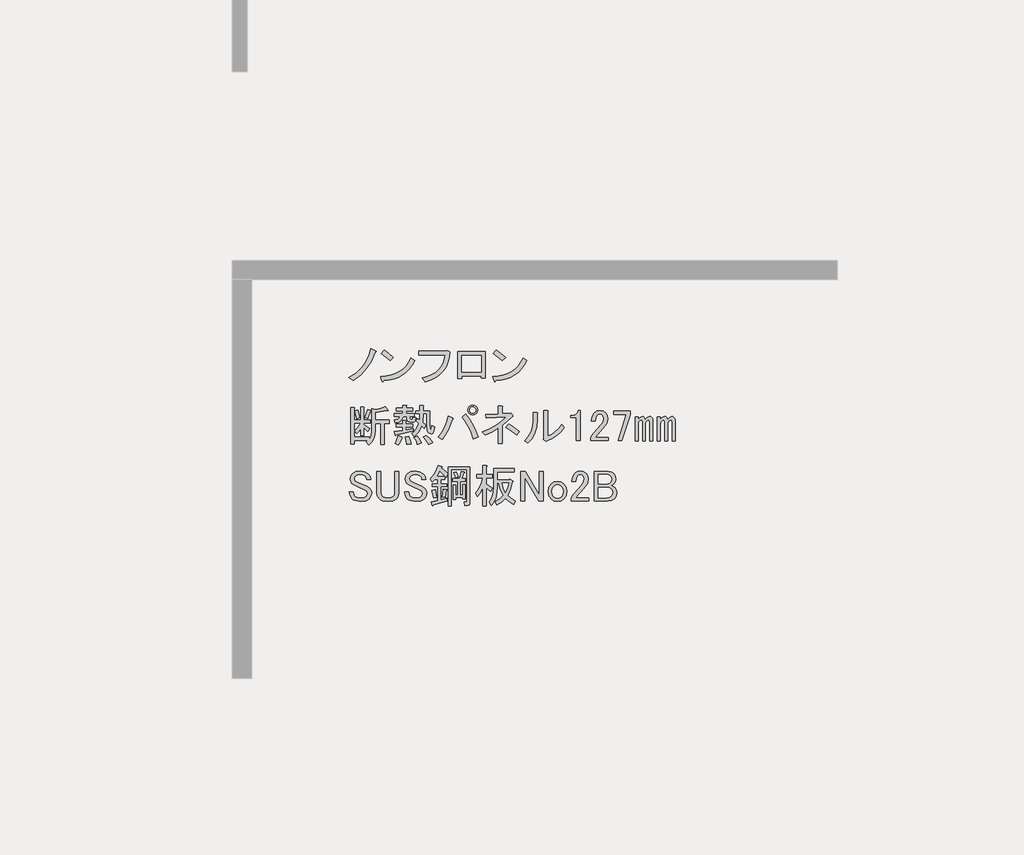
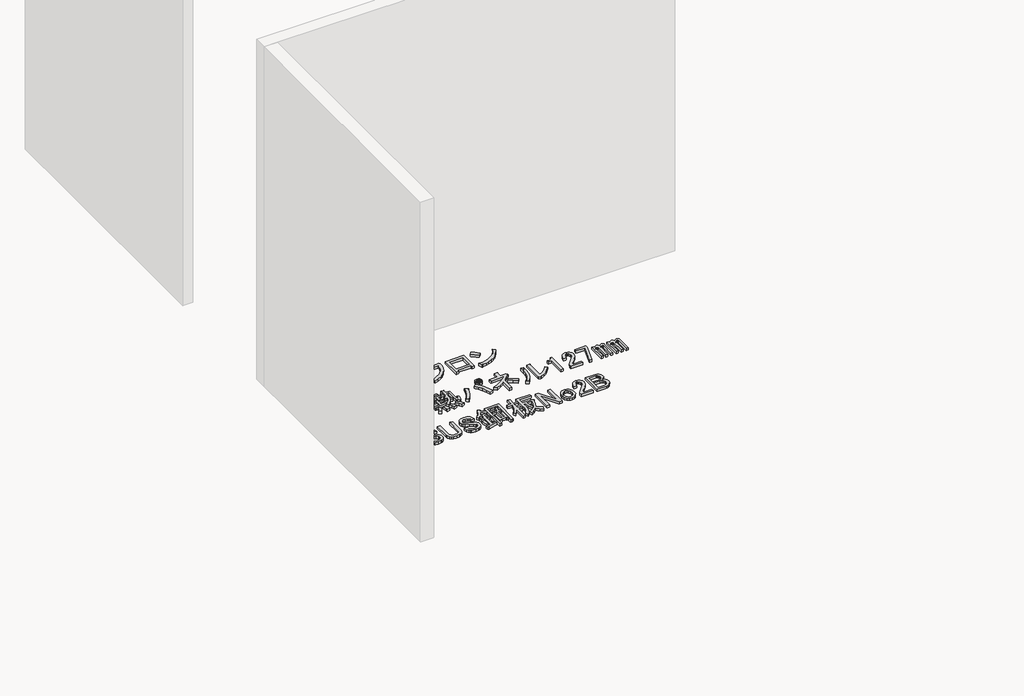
# One storey, part 39 of 117: 1 proxy.
"""IFC4 building model written with IfcOpenShell, lengths in millimetres."""

from ifc_helpers import new_model, si_unit, frame, origin, place, context, project, spatial, polyline, outline, extrude, element, save

model = new_model("IFC4")

# Units and contexts
model_context = context("Model", 3, world=origin())
ifc_project = project(units=[si_unit("LENGTHUNIT", "METRE", prefix="MILLI")], contexts=[model_context])

# Site, building, storey
site = spatial("IfcSite", under=ifc_project)
building = spatial("IfcBuilding", under=site)
storey = spatial("IfcBuildingStorey", under=building, Name="レベル 1", Elevation=500.0)

# Proxy
placement = place(None, origin())
element("IfcBuildingElementProxy", 1, Name="200㎜\u3000MS Pゴシック", ObjectType="200㎜\u3000MS Pゴシック", at=placement, inside=storey, context=model_context, shape_type="SweptSolid", body=[
    extrude(outline(polyline([(8943.6706985, -8607.0496882), (8918.0952502, -8666.8215225), (8889.646156, -8712.7998566), (8847.9782907, -8758.2034615), (8798.8389462, -8795.560858), (8771.2519457, -8773.7211493), (8818.9544673, -8743.2605029), (8858.6107805, -8704.7536481), (8875.9963381, -8680.8305462), (8891.3703435, -8652.7406577), (8904.7327969, -8620.4839827), (8916.0836981, -8584.0605212), (8947.1190736, -8597.8540214), (8950.2800841, -8602.4518548), (8943.6706985, -8607.0496882)])), frame((0.0, 0.0, 500.0), z_axis=(0.0, 0.0, 1.0), x_axis=(1.0, 0.0, 0.0)), (0.0, 0.0, 1.0), 25.0),
    extrude(outline(polyline([(9043.3977052, -8662.2236891), (8984.7753292, -8615.0958967), (9004.3161212, -8590.9572713), (9031.6157571, -8610.7854279), (9065.2374138, -8640.3839804), (9043.3977052, -8662.2236891)])), frame((0.0, 0.0, 500.0), z_axis=(0.0, 0.0, 1.0), x_axis=(1.0, 0.0, 0.0)), (0.0, 0.0, 1.0), 25.0),
    extrude(outline(polyline([(9205.4713328, -8662.2236891), (9188.947869, -8691.965924), (9169.8381239, -8717.9724192), (9148.1420975, -8740.2431748), (9123.8597898, -8758.7781907), (9096.9912008, -8773.577467), (9067.5363306, -8784.6410036), (9035.495179, -8791.9688006), (9000.8677461, -8795.560858), (8995.1204544, -8803.6070664), (8989.3731626, -8797.8597747), (8980.1774958, -8767.9738575), (9016.0082679, -8765.2977748), (9048.7857912, -8758.9937141), (9078.5100658, -8749.0616756), (9105.1810916, -8735.5016591), (9128.7988687, -8718.3136646), (9149.363397, -8697.4976923), (9166.8746766, -8673.053742), (9181.3327074, -8644.9818138), (9205.4713328, -8662.2236891)])), frame((0.0, 0.0, 500.0), z_axis=(0.0, 0.0, 1.0), x_axis=(1.0, 0.0, 0.0)), (0.0, 0.0, 1.0), 25.0),
    extrude(outline(polyline([(9256.2314136, -8777.1695243), (9290.014713, -8767.4889298), (9319.5234641, -8755.1142922), (9344.757667, -8740.0456116), (9365.7173217, -8722.282888), (9382.402428, -8701.8261214), (9394.8129862, -8678.6753118), (9402.9489961, -8652.8304591), (9406.8104577, -8624.2915635), (9234.3917049, -8624.2915635), (9234.3917049, -8599.0034798), (9409.1093744, -8599.0034798), (9425.2017914, -8595.5551047), (9437.8458332, -8607.0496882), (9434.325617, -8643.5449909), (9426.0638851, -8676.5919185), (9413.0606375, -8706.1904711), (9395.3158742, -8732.3406486), (9372.8295952, -8755.042451), (9345.6018005, -8774.2958784), (9313.6324901, -8790.1009308), (9276.921664, -8802.4576081), (9256.2314136, -8777.1695243)])), frame((0.0, 0.0, 500.0), z_axis=(0.0, 0.0, 1.0), x_axis=(1.0, 0.0, 0.0)), (0.0, 0.0, 1.0), 25.0),
    extrude(outline(polyline([(9670.955987, -8776.020066), (9644.5184449, -8776.020066), (9644.5184449, -8763.3760241), (9516.9285679, -8763.3760241), (9516.9285679, -8781.7673577), (9490.4910258, -8781.7673577), (9490.4910258, -8602.4518548), (9670.955987, -8602.4518548), (9670.955987, -8776.020066)]), holes=[polyline([(9516.9285679, -8627.7399386), (9516.9285679, -8738.0879404), (9644.5184449, -8738.0879404), (9644.5184449, -8627.7399386), (9516.9285679, -8627.7399386)])]), frame((0.0, 0.0, 500.0), z_axis=(0.0, 0.0, 1.0), x_axis=(1.0, 0.0, 0.0)), (0.0, 0.0, 1.0), 25.0),
    extrude(outline(polyline([(9947.0099049, -8662.2236891), (9930.4864411, -8691.965924), (9911.376696, -8717.9724192), (9889.6806696, -8740.2431748), (9865.3983619, -8758.7781907), (9838.5297729, -8773.577467), (9809.0749026, -8784.6410036), (9777.0337511, -8791.9688006), (9742.4063182, -8795.560858), (9736.6590264, -8803.6070664), (9730.9117347, -8797.8597747), (9721.7160679, -8767.9738575), (9757.5468399, -8765.2977748), (9790.3243633, -8758.9937141), (9820.0486378, -8749.0616756), (9846.7196637, -8735.5016591), (9870.3374407, -8718.3136646), (9890.9019691, -8697.4976923), (9908.4132486, -8673.053742), (9922.8712795, -8644.9818138), (9947.0099049, -8662.2236891)])), frame((0.0, 0.0, 500.0), z_axis=(0.0, 0.0, 1.0), x_axis=(1.0, 0.0, 0.0)), (0.0, 0.0, 1.0), 25.0),
    extrude(outline(polyline([(9784.9362772, -8662.2236891), (9726.3139013, -8615.0958967), (9745.8546933, -8590.9572713), (9773.1543291, -8610.7854279), (9806.7759859, -8640.3839804), (9784.9362772, -8662.2236891)])), frame((0.0, 0.0, 500.0), z_axis=(0.0, 0.0, 1.0), x_axis=(1.0, 0.0, 0.0)), (0.0, 0.0, 1.0), 25.0),
    extrude(outline(polyline([(8877.0021141, -9039.2345221), (8894.2439894, -8986.3594379), (8914.9342397, -8992.1067296), (8916.6584273, -8995.2677401), (8912.635323, -8997.8540214), (8895.3934477, -9046.1312722), (8877.0021141, -9039.2345221)])), frame((0.0, 0.0, 500.0), z_axis=(0.0, 0.0, 1.0), x_axis=(1.0, 0.0, 0.0)), (0.0, 0.0, 1.0), 25.0),
    extrude(outline(polyline([(9031.0295333, -8990.9572713), (9029.3053458, -8995.5551047), (9021.8338665, -8993.256188), (8944.8201569, -9005.9002299), (8944.8201569, -9055.326939), (9036.7768251, -9055.326939), (9036.7768251, -9077.1666477), (9005.7414495, -9077.1666477), (9005.7414495, -9217.4005666), (8982.7522825, -9217.4005666), (8982.7522825, -9077.1666477), (8944.8201569, -9077.1666477), (8944.8201569, -9126.5933568), (8942.2338756, -9154.3958807), (8934.4750317, -9179.1810764), (8921.5436253, -9200.948944), (8903.4396562, -9219.6994833), (8886.1977809, -9200.1586914), (8896.5429061, -9190.9630245), (8806.8851546, -9190.9630245), (8806.8851546, -9212.8027332), (8783.8959876, -9212.8027332), (8783.8959876, -8973.715396), (8805.7356963, -8973.715396), (8810.6208943, -8976.0143127), (8806.8851546, -8980.6121461), (8806.8851546, -9056.4763974), (8849.4151137, -9056.4763974), (8849.4151137, -8969.1175626), (8867.8064473, -8969.1175626), (8872.6916453, -8971.4164793), (8868.9559057, -8976.0143127), (8868.9559057, -9056.4763974), (8912.635323, -9056.4763974), (8912.635323, -9074.867731), (8868.9559057, -9074.867731), (8868.9559057, -9084.0633978), (8909.186948, -9110.5009399), (8895.3934477, -9132.3406486), (8868.9559057, -9105.9031065), (8868.9559057, -9158.7781907), (8849.4151137, -9158.7781907), (8849.4151137, -9110.5009399), (8836.1963426, -9130.3290965), (8821.8281132, -9146.1341488), (8809.1840713, -9127.7428152), (8831.02378, -9103.6041898), (8848.2656553, -9074.867731), (8806.8851546, -9074.867731), (8806.8851546, -9169.1233159), (8904.5891146, -9169.1233159), (8904.5891146, -9182.9168161), (8917.520521, -9158.7781907), (8921.8309898, -9125.4438985), (8921.8309898, -8980.6121461), (8943.6706985, -8986.3594379), (8979.8786366, -8978.8879586), (9010.339283, -8965.6691875), (9031.0295333, -8990.9572713)])), frame((0.0, 0.0, 500.0), z_axis=(0.0, 0.0, 1.0), x_axis=(1.0, 0.0, 0.0)), (0.0, 0.0, 1.0), 25.0),
    extrude(outline(polyline([(8822.9775716, -9047.2807305), (8810.3335297, -8996.7045631), (8829.8743217, -8989.8078129), (8837.6331656, -9013.9464383), (8842.5183636, -9040.3839804), (8822.9775716, -9047.2807305)])), frame((0.0, 0.0, 500.0), z_axis=(0.0, 0.0, 1.0), x_axis=(1.0, 0.0, 0.0)), (0.0, 0.0, 1.0), 25.0),
    extrude(outline(polyline([(9121.8367431, -9167.9738575), (9125.2851182, -9172.8590555), (9119.5378264, -9176.020066), (9109.7674304, -9201.5955143), (9098.8475761, -9220.8489417), (9075.858409, -9209.3543582), (9088.5024509, -9185.790462), (9098.8475761, -9158.7781907), (9121.8367431, -9167.9738575)])), frame((0.0, 0.0, 500.0), z_axis=(0.0, 0.0, 1.0), x_axis=(1.0, 0.0, 0.0)), (0.0, 0.0, 1.0), 25.0),
    extrude(outline(polyline([(9166.6656188, -9163.3760241), (9176.7233794, -9190.67566), (9181.6085774, -9212.8027332), (9152.8721186, -9218.550025), (9150.2858373, -9196.9976809), (9142.5269934, -9166.8243992), (9166.6656188, -9163.3760241)])), frame((0.0, 0.0, 500.0), z_axis=(0.0, 0.0, 1.0), x_axis=(1.0, 0.0, 0.0)), (0.0, 0.0, 1.0), 25.0),
    extrude(outline(polyline([(9281.611454, -9157.6287323), (9306.3248086, -9178.8937119), (9325.2908714, -9203.6070664), (9298.8533293, -9218.550025), (9279.5999019, -9188.9514724), (9260.9212037, -9169.1233159), (9281.611454, -9157.6287323)])), frame((0.0, 0.0, 500.0), z_axis=(0.0, 0.0, 1.0), x_axis=(1.0, 0.0, 0.0)), (0.0, 0.0, 1.0), 25.0),
    extrude(outline(polyline([(9222.9890781, -9216.2511083), (9214.655505, -9191.5377537), (9201.1493694, -9170.2727742), (9221.8396197, -9162.2265657), (9238.7941304, -9183.7789098), (9250.5760785, -9207.0554415), (9222.9890781, -9216.2511083)])), frame((0.0, 0.0, 500.0), z_axis=(0.0, 0.0, 1.0), x_axis=(1.0, 0.0, 0.0)), (0.0, 0.0, 1.0), 25.0),
    extrude(outline(polyline([(9083.9046175, -9153.0308989), (9081.8930654, -9157.9160969), (9078.1573257, -9156.479274), (9072.410034, -9132.3406486), (9127.5840349, -9124.2944401), (9127.5840349, -9101.3052731), (9083.9046175, -9101.3052731), (9083.9046175, -9082.9139395), (9127.5840349, -9082.9139395), (9127.5840349, -9059.9247724), (9145.9753685, -9059.9247724), (9150.8605665, -9062.2236891), (9147.1248268, -9066.8215225), (9147.1248268, -9082.9139395), (9191.9537026, -9082.9139395), (9191.9537026, -9101.3052731), (9147.1248268, -9101.3052731), (9147.1248268, -9120.8460651), (9197.7009943, -9111.6503983), (9197.7009943, -9127.7428152), (9083.9046175, -9153.0308989)])), frame((0.0, 0.0, 500.0), z_axis=(0.0, 0.0, 1.0), x_axis=(1.0, 0.0, 0.0)), (0.0, 0.0, 1.0), 25.0),
    extrude(outline(polyline([(9154.021577, -9031.1883136), (9128.7334932, -9031.1883136), (9124.1356598, -9048.6457123), (9113.7905346, -9061.9363245), (9097.6981177, -9071.0601502), (9075.858409, -9076.0171893), (9071.2605756, -9056.4763974), (9096.5486594, -9047.8554597), (9104.0201386, -9040.5276627), (9108.0432429, -9031.1883136), (9072.410034, -9031.1883136), (9072.410034, -9012.79698), (9126.4345765, -9012.79698), (9126.4345765, -8995.5551047), (9082.7551591, -8995.5551047), (9082.7551591, -8977.1637711), (9126.4345765, -8977.1637711), (9126.4345765, -8958.7724374), (9148.2742852, -8958.7724374), (9153.1594832, -8961.0713541), (9149.4237436, -8965.6691875), (9149.4237436, -8977.1637711), (9191.9537026, -8977.1637711), (9191.9537026, -8995.5551047), (9149.4237436, -8995.5551047), (9149.4237436, -9012.79698), (9202.2988277, -9012.79698), (9202.2988277, -9031.1883136), (9173.5623689, -9031.1883136), (9173.5623689, -9043.8323555), (9174.9991919, -9049.0049181), (9179.3096607, -9050.7291056), (9189.6547859, -9050.7291056), (9193.3905255, -9047.5680951), (9193.1031609, -9038.0850637), (9212.6439529, -9040.3839804), (9209.770307, -9061.9363245), (9204.4540622, -9067.3244106), (9196.551536, -9069.1204392), (9172.4129106, -9069.1204392), (9158.6194104, -9064.2352412), (9154.021577, -9049.5796472), (9154.021577, -9031.1883136)])), frame((0.0, 0.0, 500.0), z_axis=(0.0, 0.0, 1.0), x_axis=(1.0, 0.0, 0.0)), (0.0, 0.0, 1.0), 25.0),
    extrude(outline(polyline([(9285.0598291, -9013.9464383), (9263.2201204, -9013.9464383), (9258.622287, -9071.4193559), (9278.163079, -9089.8106896), (9267.8179538, -9111.6503983), (9251.7255369, -9095.5579813), (9232.4721095, -9133.2027424), (9202.2988277, -9165.6749408), (9185.0569525, -9144.9846905), (9200.1435933, -9133.0590601), (9213.2186821, -9117.9724192), (9224.2822187, -9099.7247679), (9233.3342033, -9078.316106), (9216.092328, -9063.3731475), (9224.1385364, -9046.1312722), (9237.9320367, -9056.4763974), (9240.2309534, -9013.9464383), (9212.6439529, -9013.9464383), (9212.6439529, -8995.5551047), (9240.2309534, -8995.5551047), (9240.2309534, -8961.0713541), (9262.0706621, -8961.0713541), (9266.95586, -8963.3702708), (9263.2201204, -8967.9681043), (9263.2201204, -8995.5551047), (9304.6006211, -8995.5551047), (9304.6006211, -9092.1096063), (9308.0489961, -9116.2482317), (9311.2818477, -9118.2597838), (9314.0836525, -9115.0987733), (9318.3941213, -9093.2590646), (9337.9349133, -9100.1558147), (9333.408921, -9126.9525626), (9325.578236, -9142.9731384), (9314.4428582, -9148.2175421), (9300.0027877, -9142.6857738), (9293.4652433, -9135.3579768), (9288.7955687, -9123.719711), (9285.0598291, -9087.5117729), (9285.0598291, -9013.9464383)])), frame((0.0, 0.0, 500.0), z_axis=(0.0, 0.0, 1.0), x_axis=(1.0, 0.0, 0.0)), (0.0, 0.0, 1.0), 25.0),
    extrude(outline(polyline([(9543.6879583, -9016.245355), (9570.3410238, -9052.9561812), (9592.8273029, -9090.6727833), (9611.1467953, -9129.3951616), (9625.2995013, -9169.1233159), (9594.2641258, -9179.468441), (9578.8182792, -9136.3637528), (9561.2171982, -9097.856898), (9541.4608827, -9063.9478766), (9519.5493329, -9034.6366887), (9543.6879583, -9016.245355)])), frame((0.0, 0.0, 500.0), z_axis=(0.0, 0.0, 1.0), x_axis=(1.0, 0.0, 0.0)), (0.0, 0.0, 1.0), 25.0),
    extrude(outline(polyline([(9456.3291235, -9042.6828971), (9460.3522278, -9048.1428243), (9454.0302068, -9053.0280223), (9442.1045764, -9088.4457078), (9427.0179356, -9122.282888), (9408.7702842, -9154.539563), (9387.3616224, -9185.2157328), (9360.9240803, -9167.9738575), (9384.1287708, -9136.5074351), (9403.1666748, -9103.0294606), (9418.0377922, -9067.539934), (9428.7421231, -9030.0388553), (9456.3291235, -9042.6828971)])), frame((0.0, 0.0, 500.0), z_axis=(0.0, 0.0, 1.0), x_axis=(1.0, 0.0, 0.0)), (0.0, 0.0, 1.0), 25.0),
    extrude(outline(polyline([(9589.6662924, -9021.9926468), (9577.0222505, -9019.6937301), (9566.6771253, -9012.79698), (9559.7803752, -9002.4518548), (9557.4814585, -8989.8078129), (9559.7803752, -8977.1637711), (9566.6771253, -8966.8186459), (9577.0222505, -8959.9218958), (9589.6662924, -8957.6229791), (9602.3103343, -8959.9218958), (9612.6554594, -8966.8186459), (9619.5522095, -8977.1637711), (9621.8511262, -8989.8078129), (9619.5522095, -9002.4518548), (9612.6554594, -9012.79698), (9602.3103343, -9019.6937301), (9589.6662924, -9021.9926468)]), holes=[polyline([(9589.6662924, -9010.4980633), (9597.9998654, -9009.0612403), (9604.609251, -9004.7507715), (9608.9197198, -8998.141386), (9610.3565427, -8989.8078129), (9608.9197198, -8981.4742399), (9604.609251, -8974.8648544), (9597.9998654, -8970.5543855), (9589.6662924, -8969.1175626), (9581.3327193, -8970.5543855), (9574.7233338, -8974.8648544), (9570.412865, -8981.4742399), (9568.976042, -8989.8078129), (9570.412865, -8998.141386), (9574.7233338, -9004.7507715), (9581.3327193, -9009.0612403), (9589.6662924, -9010.4980633)])]), frame((0.0, 0.0, 500.0), z_axis=(0.0, 0.0, 1.0), x_axis=(1.0, 0.0, 0.0)), (0.0, 0.0, 1.0), 25.0),
    extrude(outline(polyline([(9879.3297971, -9155.3298156), (9842.2597652, -9126.0186277), (9809.2128376, -9104.7536481), (9826.4547129, -9082.9139395), (9865.2489323, -9106.1904711), (9898.8705891, -9132.3406486), (9879.3297971, -9155.3298156)])), frame((0.0, 0.0, 500.0), z_axis=(0.0, 0.0, 1.0), x_axis=(1.0, 0.0, 0.0)), (0.0, 0.0, 1.0), 25.0),
    extrude(outline(polyline([(9833.351463, -9011.6475216), (9840.2482131, -9009.3486049), (9852.892255, -9026.5904802), (9854.0417134, -9032.6251366), (9848.2944216, -9034.6366887), (9785.0742122, -9090.9601479), (9785.0742122, -9211.6532749), (9758.6366701, -9211.6532749), (9758.6366701, -9109.3514816), (9718.4056278, -9133.4901069), (9673.5767521, -9155.3298156), (9654.0359601, -9134.6395653), (9699.5832473, -9115.1706145), (9740.8200657, -9092.3969709), (9777.7464152, -9066.3186345), (9810.362296, -9036.9356054), (9680.4735022, -9042.6828971), (9677.0251271, -9017.3948134), (9758.6366701, -9015.0958967), (9758.6366701, -8963.3702708), (9781.6258372, -8963.3702708), (9787.6604935, -8966.8186459), (9785.0742122, -8972.5659377), (9785.0742122, -9013.9464383), (9833.351463, -9011.6475216)])), frame((0.0, 0.0, 500.0), z_axis=(0.0, 0.0, 1.0), x_axis=(1.0, 0.0, 0.0)), (0.0, 0.0, 1.0), 25.0),
    extrude(outline(polyline([(9932.296838, -9193.2619413), (9957.4412394, -9164.0225944), (9975.4015262, -9131.4785548), (9986.1776982, -9095.6298225), (9989.7697556, -9056.4763974), (9989.7697556, -9004.7507715), (10013.908381, -9004.7507715), (10019.6556727, -9008.1991466), (10016.2072977, -9013.9464383), (10016.2072977, -9055.326939), (10012.3997169, -9101.0897496), (10000.9769745, -9141.82368), (9981.9390705, -9177.5287301), (9955.286005, -9208.2048998), (9932.296838, -9193.2619413)])), frame((0.0, 0.0, 500.0), z_axis=(0.0, 0.0, 1.0), x_axis=(1.0, 0.0, 0.0)), (0.0, 0.0, 1.0), 25.0),
    extrude(outline(polyline([(10086.3242571, -9162.2265657), (10111.1094529, -9150.0135708), (10134.8888725, -9132.9153778), (10157.6625161, -9110.9319868), (10179.4303837, -9084.0633978), (10195.5228006, -9105.9031065), (10172.246269, -9133.7056304), (10146.0960914, -9157.3413678), (10117.0722681, -9176.8103186), (10085.1747988, -9192.1124829), (10075.979132, -9196.7103163), (10057.5877983, -9182.9168161), (10059.886715, -9177.1695243), (10059.886715, -8992.1067296), (10084.0253404, -8992.1067296), (10089.7726322, -8995.5551047), (10086.3242571, -9001.3023965), (10086.3242571, -9162.2265657)])), frame((0.0, 0.0, 500.0), z_axis=(0.0, 0.0, 1.0), x_axis=(1.0, 0.0, 0.0)), (0.0, 0.0, 1.0), 25.0),
    extrude(outline(polyline([(10274.8354269, -9015.0958967), (10282.8816353, -9004.1760423), (10286.3300104, -8992.1067296), (10300.1235106, -8992.1067296), (10300.1235106, -9190.9630245), (10273.6859685, -9190.9630245), (10273.6859685, -9038.0850637), (10239.202218, -9038.0850637), (10239.202218, -9024.2915635), (10249.5473431, -9024.2915635), (10263.9155725, -9021.9926468), (10274.8354269, -9015.0958967)])), frame((0.0, 0.0, 500.0), z_axis=(0.0, 0.0, 1.0), x_axis=(1.0, 0.0, 0.0)), (0.0, 0.0, 1.0), 25.0),
    extrude(outline(polyline([(10374.8383035, -9062.2236891), (10379.4361369, -9030.900949), (10393.2296371, -9008.1991466), (10409.6094186, -8996.9919276), (10428.862846, -8993.256188), (10451.5646485, -8996.9919276), (10469.0938884, -9008.1991466), (10480.3011073, -9024.8662927), (10484.0368469, -9044.9818138), (10479.7263781, -9070.8446268), (10466.7949717, -9093.2590646), (10433.4606795, -9131.1911902), (10415.0693458, -9151.8814406), (10401.2758456, -9170.2727742), (10487.485222, -9170.2727742), (10487.485222, -9192.1124829), (10370.2404701, -9192.1124829), (10370.2404701, -9172.5716909), (10376.2751264, -9158.7781907), (10389.7812621, -9140.3868571), (10436.9090545, -9088.6612312), (10451.5646485, -9067.3962517), (10456.4498465, -9044.9818138), (10454.1509298, -9032.337772), (10447.2541797, -9021.9926468), (10439.4953358, -9016.8200842), (10430.0123044, -9015.0958967), (10421.3913668, -9016.8200842), (10413.9198875, -9021.9926468), (10404.4368561, -9038.3724283), (10401.2758456, -9062.2236891), (10374.8383035, -9062.2236891)])), frame((0.0, 0.0, 500.0), z_axis=(0.0, 0.0, 1.0), x_axis=(1.0, 0.0, 0.0)), (0.0, 0.0, 1.0), 25.0),
    extrude(outline(polyline([(10521.9689726, -8995.5551047), (10631.167516, -8995.5551047), (10631.167516, -9020.8431884), (10575.9935151, -9192.1124829), (10550.7054314, -9192.1124829), (10605.8794323, -9017.3948134), (10521.9689726, -9017.3948134), (10521.9689726, -8995.5551047)])), frame((0.0, 0.0, 500.0), z_axis=(0.0, 0.0, 1.0), x_axis=(1.0, 0.0, 0.0)), (0.0, 0.0, 1.0), 25.0),
    extrude(outline(polyline([(10684.0426002, -9193.2619413), (10664.5018082, -9193.2619413), (10664.5018082, -9035.786147), (10684.0426002, -9035.786147), (10684.0426002, -9053.0280223), (10696.1119129, -9037.5103346), (10709.3306839, -9032.337772), (10718.5263508, -9033.7745949), (10725.4231009, -9038.0850637), (10732.319851, -9051.878564), (10745.2512574, -9037.22297), (10758.7573931, -9032.337772), (10767.0909661, -9033.7745949), (10773.7003517, -9038.0850637), (10778.8729142, -9046.7060014), (10780.5971018, -9058.7753141), (10780.5971018, -9193.2619413), (10761.0563098, -9193.2619413), (10761.0563098, -9069.1204392), (10758.4700285, -9059.6374078), (10750.7111846, -9056.4763974), (10740.3660594, -9061.0742308), (10734.3314031, -9069.6951684), (10732.319851, -9079.4655644), (10732.319851, -9193.2619413), (10712.779059, -9193.2619413), (10712.779059, -9069.1204392), (10710.1927777, -9059.6374078), (10702.4339338, -9056.4763974), (10692.0888087, -9061.0742308), (10686.0541523, -9069.6951684), (10684.0426002, -9079.4655644), (10684.0426002, -9193.2619413)])), frame((0.0, 0.0, 500.0), z_axis=(0.0, 0.0, 1.0), x_axis=(1.0, 0.0, 0.0)), (0.0, 0.0, 1.0), 25.0),
    extrude(outline(polyline([(10905.8880621, -9032.337772), (10914.2216352, -9033.7745949), (10920.8310207, -9038.0850637), (10926.0035833, -9046.7060014), (10927.7277708, -9058.7753141), (10927.7277708, -9193.2619413), (10908.1869788, -9193.2619413), (10908.1869788, -9069.1204392), (10905.6006976, -9059.6374078), (10897.8418537, -9056.4763974), (10887.4967285, -9061.0742308), (10881.4620722, -9069.6951684), (10879.45052, -9079.4655644), (10879.45052, -9193.2619413), (10859.9097281, -9193.2619413), (10859.9097281, -9069.1204392), (10857.3234468, -9059.6374078), (10849.5646029, -9056.4763974), (10839.2194777, -9061.0742308), (10833.1848214, -9069.6951684), (10831.1732693, -9079.4655644), (10831.1732693, -9193.2619413), (10811.6324773, -9193.2619413), (10811.6324773, -9035.786147), (10831.1732693, -9035.786147), (10831.1732693, -9053.0280223), (10843.242582, -9037.5103346), (10856.461353, -9032.337772), (10865.6570198, -9033.7745949), (10872.5537699, -9038.0850637), (10879.45052, -9051.878564), (10892.3819265, -9037.22297), (10905.8880621, -9032.337772)])), frame((0.0, 0.0, 500.0), z_axis=(0.0, 0.0, 1.0), x_axis=(1.0, 0.0, 0.0)), (0.0, 0.0, 1.0), 25.0),
    extrude(outline(polyline([(8779.2981542, -9447.2807305), (8783.3212584, -9426.8778448), (8795.3905711, -9409.3486049), (8815.7934569, -9397.2792922), (8844.8172803, -9393.256188), (8876.1400204, -9397.8540214), (8898.8418228, -9411.6475216), (8910.9111355, -9429.1767615), (8914.9342397, -9449.5796472), (8888.4966976, -9449.5796472), (8886.1977809, -9436.9356054), (8879.3010308, -9426.5904802), (8866.0822598, -9418.8316363), (8847.116197, -9416.245355), (8826.7133112, -9418.5442717), (8813.7819048, -9425.4410219), (8807.7472484, -9434.0619595), (8805.7356963, -9443.8323555), (8810.3335297, -9458.7753141), (8831.02378, -9470.2698976), (8890.7956143, -9496.7074397), (8908.0374896, -9508.2020232), (8917.520521, -9521.9955234), (8920.6815315, -9538.0879404), (8916.6584273, -9559.3529199), (8904.5891146, -9577.1695243), (8894.6031951, -9584.7128448), (8881.8873121, -9590.1009308), (8848.2656553, -9594.4113996), (8814.6439985, -9589.238837), (8801.0660217, -9582.7731338), (8789.6432794, -9573.7211493), (8778.4360604, -9555.3298156), (8774.7003208, -9530.0417319), (8801.1378629, -9530.0417319), (8803.4367796, -9547.8583363), (8810.3335297, -9559.927649), (8826.4259466, -9569.4106804), (8849.4151137, -9572.5716909), (8870.3927286, -9569.698045), (8885.0483226, -9561.0771074), (8891.9450727, -9551.8814406), (8894.2439894, -9542.6857738), (8892.5198019, -9533.2027424), (8887.3472393, -9525.4438985), (8868.9559057, -9513.949315), (8839.0699885, -9500.1558147), (8805.7356963, -9485.2128562), (8789.6432794, -9474.867731), (8781.8844355, -9462.7984183), (8779.2981542, -9447.2807305)])), frame((0.0, 0.0, 500.0), z_axis=(0.0, 0.0, 1.0), x_axis=(1.0, 0.0, 0.0)), (0.0, 0.0, 1.0), 25.0),
    extrude(outline(polyline([(8954.7054987, -9395.5551047), (8981.1430408, -9395.5551047), (8981.1430408, -9533.4901069), (8983.7293221, -9548.1457009), (8991.488166, -9559.927649), (9007.0058537, -9569.4106804), (9028.2708332, -9572.5716909), (9049.5358128, -9569.4106804), (9065.0535005, -9559.927649), (9072.8123444, -9548.1457009), (9075.3986257, -9533.4901069), (9075.3986257, -9395.5551047), (9101.8361678, -9395.5551047), (9101.8361678, -9534.6395653), (9097.8130635, -9557.6287323), (9085.7437508, -9576.020066), (9075.2549434, -9584.0662744), (9062.1798546, -9589.8135662), (9028.2708332, -9594.4113996), (8994.3618119, -9589.8135662), (8981.2867231, -9584.0662744), (8970.7979156, -9576.020066), (8958.7286029, -9557.6287323), (8954.7054987, -9534.6395653), (8954.7054987, -9395.5551047)])), frame((0.0, 0.0, 500.0), z_axis=(0.0, 0.0, 1.0), x_axis=(1.0, 0.0, 0.0)), (0.0, 0.0, 1.0), 25.0),
    extrude(outline(polyline([(9144.1822135, -9447.2807305), (9148.2053177, -9426.8778448), (9160.2746304, -9409.3486049), (9180.6775161, -9397.2792922), (9209.7013395, -9393.256188), (9241.0240796, -9397.8540214), (9263.7258821, -9411.6475216), (9275.7951948, -9429.1767615), (9279.818299, -9449.5796472), (9253.3807569, -9449.5796472), (9251.0818402, -9436.9356054), (9244.1850901, -9426.5904802), (9230.966319, -9418.8316363), (9212.0002562, -9416.245355), (9191.5973705, -9418.5442717), (9178.665964, -9425.4410219), (9172.6313077, -9434.0619595), (9170.6197556, -9443.8323555), (9175.217589, -9458.7753141), (9195.9078393, -9470.2698976), (9255.6796736, -9496.7074397), (9272.9215489, -9508.2020232), (9282.4045803, -9521.9955234), (9285.5655908, -9538.0879404), (9281.5424865, -9559.3529199), (9269.4731738, -9577.1695243), (9259.4872544, -9584.7128448), (9246.7713714, -9590.1009308), (9213.1497146, -9594.4113996), (9179.5280578, -9589.238837), (9165.950081, -9582.7731338), (9154.5273386, -9573.7211493), (9143.3201197, -9555.3298156), (9139.5843801, -9530.0417319), (9166.0219222, -9530.0417319), (9168.3208389, -9547.8583363), (9175.217589, -9559.927649), (9191.3100059, -9569.4106804), (9214.2991729, -9572.5716909), (9235.2767879, -9569.698045), (9249.9323819, -9561.0771074), (9256.829132, -9551.8814406), (9259.1280487, -9542.6857738), (9257.4038611, -9533.2027424), (9252.2312986, -9525.4438985), (9233.8399649, -9513.949315), (9203.9540478, -9500.1558147), (9170.6197556, -9485.2128562), (9154.5273386, -9474.867731), (9146.7684948, -9462.7984183), (9144.1822135, -9447.2807305)])), frame((0.0, 0.0, 500.0), z_axis=(0.0, 0.0, 1.0), x_axis=(1.0, 0.0, 0.0)), (0.0, 0.0, 1.0), 25.0),
    extrude(outline(polyline([(9428.7881014, -9365.6691875), (9569.0220204, -9365.6691875), (9569.0220204, -9605.9059831), (9565.2862807, -9617.1132021), (9554.0790618, -9620.8489417), (9537.9866449, -9620.8489417), (9533.3888115, -9599.009233), (9544.883395, -9599.009233), (9548.33177, -9597.8597747), (9549.4812284, -9594.4113996), (9549.4812284, -9384.0605212), (9448.3288934, -9384.0605212), (9448.3288934, -9623.1478584), (9428.7881014, -9623.1478584), (9428.7881014, -9365.6691875)])), frame((0.0, 0.0, 500.0), z_axis=(0.0, 0.0, 1.0), x_axis=(1.0, 0.0, 0.0)), (0.0, 0.0, 1.0), 25.0),
    extrude(outline(polyline([(9481.6631856, -9397.8540214), (9488.8473003, -9413.0843446), (9494.3072275, -9433.4872303), (9477.0653522, -9439.2345221), (9465.5707687, -9402.4518548), (9481.6631856, -9397.8540214)])), frame((0.0, 0.0, 500.0), z_axis=(0.0, 0.0, 1.0), x_axis=(1.0, 0.0, 0.0)), (0.0, 0.0, 1.0), 25.0),
    extrude(outline(polyline([(9534.5382698, -9399.0034798), (9537.1245511, -9402.4518548), (9531.0898948, -9405.9002299), (9518.4458529, -9443.8323555), (9539.1361032, -9443.8323555), (9539.1361032, -9462.2236891), (9508.1007277, -9462.2236891), (9508.1007277, -9550.7319822), (9523.0436863, -9550.7319822), (9523.0436863, -9482.9139395), (9539.1361032, -9482.9139395), (9539.1361032, -9577.1695243), (9523.0436863, -9577.1695243), (9523.0436863, -9569.1233159), (9477.0653522, -9569.1233159), (9477.0653522, -9581.7673577), (9460.9729353, -9581.7673577), (9460.9729353, -9485.2128562), (9477.0653522, -9485.2128562), (9477.0653522, -9550.7319822), (9492.0083108, -9550.7319822), (9492.0083108, -9462.2236891), (9456.3751019, -9462.2236891), (9456.3751019, -9443.8323555), (9502.353436, -9443.8323555), (9512.6985611, -9394.4056463), (9534.5382698, -9399.0034798)])), frame((0.0, 0.0, 500.0), z_axis=(0.0, 0.0, 1.0), x_axis=(1.0, 0.0, 0.0)), (0.0, 0.0, 1.0), 25.0),
    extrude(outline(polyline([(9417.2935179, -9513.949315), (9419.8797992, -9517.1103254), (9416.1440596, -9519.6966067), (9408.0978511, -9566.8243992), (9389.7065175, -9564.5254825), (9395.4538092, -9510.5009399), (9417.2935179, -9513.949315)])), frame((0.0, 0.0, 500.0), z_axis=(0.0, 0.0, 1.0), x_axis=(1.0, 0.0, 0.0)), (0.0, 0.0, 1.0), 25.0),
    extrude(outline(polyline([(9340.2798083, -9515.0987733), (9351.7743918, -9566.8243992), (9331.0841415, -9572.5716909), (9319.589558, -9520.8460651), (9340.2798083, -9515.0987733)])), frame((0.0, 0.0, 500.0), z_axis=(0.0, 0.0, 1.0), x_axis=(1.0, 0.0, 0.0)), (0.0, 0.0, 1.0), 25.0),
    extrude(outline(polyline([(9413.8451429, -9434.6366887), (9372.4646422, -9390.9572713), (9350.6249335, -9430.0388553), (9405.7989344, -9430.0388553), (9405.7989344, -9448.4301889), (9379.3613923, -9448.4301889), (9379.3613923, -9477.1666477), (9417.2935179, -9477.1666477), (9417.2935179, -9495.5579813), (9379.3613923, -9495.5579813), (9379.3613923, -9582.9168161), (9418.4429763, -9572.5716909), (9420.741893, -9592.1124829), (9328.7852248, -9617.4005666), (9326.4863081, -9623.1478584), (9321.8884747, -9619.6994833), (9314.9917246, -9596.7103163), (9359.8206003, -9587.5146495), (9359.8206003, -9495.5579813), (9321.8884747, -9495.5579813), (9321.8884747, -9477.1666477), (9359.8206003, -9477.1666477), (9359.8206003, -9448.4301889), (9337.9808916, -9448.4301889), (9323.037933, -9466.8215225), (9310.3938912, -9446.1312722), (9338.5556208, -9408.4865112), (9363.2689754, -9357.6229791), (9385.1086841, -9363.3702708), (9388.5570591, -9367.1060105), (9382.8097674, -9369.1175626), (9381.660309, -9372.5659377), (9426.4891847, -9410.4980633), (9413.8451429, -9434.6366887)])), frame((0.0, 0.0, 500.0), z_axis=(0.0, 0.0, 1.0), x_axis=(1.0, 0.0, 0.0)), (0.0, 0.0, 1.0), 25.0),
    extrude(outline(polyline([(9740.2913148, -9594.4113996), (9769.0277736, -9577.1695243), (9790.8674823, -9555.3298156), (9773.0508779, -9513.3745858), (9763.2804819, -9472.5688143), (9750.63644, -9472.5688143), (9750.63644, -9496.7074397), (9748.193841, -9538.4471461), (9740.866044, -9572.8590555), (9728.653049, -9599.9431679), (9711.554856, -9619.6994833), (9697.7613558, -9596.7103163), (9710.8364446, -9579.3247587), (9720.1757937, -9557.0540032), (9725.7794031, -9529.8980496), (9727.647273, -9497.856898), (9727.647273, -9377.1637711), (9864.4328169, -9377.1637711), (9864.4328169, -9399.0034798), (9750.63644, -9399.0034798), (9750.63644, -9450.7291056), (9829.9490663, -9450.7291056), (9835.6963581, -9444.9818138), (9855.23715, -9458.7753141), (9856.673973, -9462.5110537), (9851.788775, -9466.8215225), (9839.4320977, -9513.3745858), (9820.7533995, -9554.1803573), (9839.7194623, -9572.5716909), (9871.329567, -9590.9630245), (9862.1339002, -9615.1016499), (9834.2595351, -9599.009233), (9805.8104409, -9573.7211493), (9781.3844509, -9598.1471392), (9749.4869817, -9618.550025), (9740.2913148, -9594.4113996)]), holes=[polyline([(9785.1201906, -9472.5688143), (9793.166399, -9505.6157419), (9805.8104409, -9533.4901069), (9818.4544828, -9507.3399294), (9826.5006912, -9472.5688143), (9785.1201906, -9472.5688143)])]), frame((0.0, 0.0, 500.0), z_axis=(0.0, 0.0, 1.0), x_axis=(1.0, 0.0, 0.0)), (0.0, 0.0, 1.0), 25.0),
    extrude(outline(polyline([(9657.5303135, -9623.1478584), (9657.5303135, -9503.6041898), (9639.713709, -9537.8005758), (9620.7476462, -9559.927649), (9609.2530627, -9539.2373987), (9626.494938, -9516.5355963), (9640.2884382, -9492.1096063), (9650.6335634, -9465.9594288), (9657.5303135, -9438.0850637), (9616.1498128, -9438.0850637), (9616.1498128, -9416.245355), (9657.5303135, -9416.245355), (9657.5303135, -9356.4735207), (9679.3700222, -9356.4735207), (9684.2552202, -9358.7724374), (9680.5194805, -9363.3702708), (9680.5194805, -9416.245355), (9718.4516061, -9416.245355), (9718.4516061, -9438.0850637), (9680.5194805, -9438.0850637), (9680.5194805, -9478.316106), (9718.4516061, -9504.7536481), (9708.106481, -9527.7428152), (9680.5194805, -9504.7536481), (9680.5194805, -9623.1478584), (9657.5303135, -9623.1478584)])), frame((0.0, 0.0, 500.0), z_axis=(0.0, 0.0, 1.0), x_axis=(1.0, 0.0, 0.0)), (0.0, 0.0, 1.0), 25.0),
    extrude(outline(polyline([(9908.1122342, -9395.5551047), (9936.848693, -9395.5551047), (10028.8053612, -9550.7319822), (10028.8053612, -9395.5551047), (10055.2429033, -9395.5551047), (10055.2429033, -9592.1124829), (10026.5064445, -9592.1124829), (9934.5497763, -9436.9356054), (9934.5497763, -9592.1124829), (9908.1122342, -9592.1124829), (9908.1122342, -9395.5551047)])), frame((0.0, 0.0, 500.0), z_axis=(0.0, 0.0, 1.0), x_axis=(1.0, 0.0, 0.0)), (0.0, 0.0, 1.0), 25.0),
    extrude(outline(polyline([(10088.3932822, -9527.7428152), (10093.2784802, -9500.4431793), (10107.9340742, -9478.316106), (10127.1875015, -9465.3846996), (10150.4640332, -9461.0742308), (10173.7405648, -9465.3846996), (10192.9939922, -9478.316106), (10207.6495862, -9500.4431793), (10212.5347842, -9527.7428152), (10207.6495862, -9555.042451), (10192.9939922, -9577.1695243), (10173.7405648, -9590.1009308), (10150.4640332, -9594.4113996), (10127.1875015, -9590.1009308), (10107.9340742, -9577.1695243), (10093.2784802, -9555.042451), (10088.3932822, -9527.7428152)]), holes=[polyline([(10150.4640332, -9481.7644811), (10137.8199913, -9484.0633978), (10127.4748661, -9490.9601479), (10117.129741, -9507.0525648), (10113.6813659, -9527.7428152), (10116.8423764, -9548.1457009), (10126.3254078, -9563.3760241), (10137.5326267, -9571.134868), (10150.4640332, -9573.7211493), (10163.3954396, -9571.134868), (10174.6026586, -9563.3760241), (10184.08569, -9548.1457009), (10187.2467004, -9527.7428152), (10183.7983254, -9507.0525648), (10173.4532002, -9490.9601479), (10163.1080751, -9484.0633978), (10150.4640332, -9481.7644811)])]), frame((0.0, 0.0, 500.0), z_axis=(0.0, 0.0, 1.0), x_axis=(1.0, 0.0, 0.0)), (0.0, 0.0, 1.0), 25.0),
    extrude(outline(polyline([(10245.3633147, -9462.2236891), (10249.9611481, -9430.900949), (10263.7546484, -9408.1991466), (10280.1344299, -9396.9919276), (10299.3878573, -9393.256188), (10322.0896597, -9396.9919276), (10339.6188996, -9408.1991466), (10350.8261185, -9424.8662927), (10354.5618582, -9444.9818138), (10350.2513893, -9470.8446268), (10337.3199829, -9493.2590646), (10303.9856907, -9531.1911902), (10285.594357, -9551.8814406), (10271.8008568, -9570.2727742), (10358.0102332, -9570.2727742), (10358.0102332, -9592.1124829), (10240.7654813, -9592.1124829), (10240.7654813, -9572.5716909), (10246.8001377, -9558.7781907), (10260.3062733, -9540.3868571), (10307.4340657, -9488.6612312), (10322.0896597, -9467.3962517), (10326.9748577, -9444.9818138), (10324.675941, -9432.337772), (10317.7791909, -9421.9926468), (10310.020347, -9416.8200842), (10300.5373156, -9415.0958967), (10291.916378, -9416.8200842), (10284.4448987, -9421.9926468), (10274.9618673, -9438.3724283), (10271.8008568, -9462.2236891), (10245.3633147, -9462.2236891)])), frame((0.0, 0.0, 500.0), z_axis=(0.0, 0.0, 1.0), x_axis=(1.0, 0.0, 0.0)), (0.0, 0.0, 1.0), 25.0),
    extrude(outline(polyline([(10392.4939838, -9395.5551047), (10484.4506519, -9395.5551047), (10505.4282669, -9399.2908443), (10522.3827776, -9410.4980633), (10532.7279027, -9426.5904802), (10536.1762778, -9447.2807305), (10533.0152673, -9464.2352412), (10523.5322359, -9478.316106), (10506.2903606, -9488.6612312), (10528.1300693, -9501.3052731), (10538.4751945, -9516.8229608), (10541.9235696, -9535.7890237), (10537.6131007, -9559.0655553), (10524.6816943, -9578.3189827), (10507.439819, -9588.6641078), (10483.3011936, -9592.1124829), (10392.4939838, -9592.1124829), (10392.4939838, -9395.5551047)]), holes=[polyline([(10418.9315259, -9417.3948134), (10418.9315259, -9478.316106), (10481.0022769, -9478.316106), (10491.6347666, -9476.3045539), (10500.5430689, -9470.2698976), (10507.439819, -9459.6374078), (10509.7387357, -9446.1312722), (10507.439819, -9434.3493241), (10500.5430689, -9424.2915635), (10492.784225, -9419.1190009), (10483.3011936, -9417.3948134), (10418.9315259, -9417.3948134)]), polyline([(10418.9315259, -9500.1558147), (10418.9315259, -9570.2727742), (10477.5539018, -9570.2727742), (10492.784225, -9567.9738575), (10503.9914439, -9561.0771074), (10511.7502878, -9549.5825239), (10514.3365691, -9535.7890237), (10512.0376524, -9521.4207942), (10505.1409023, -9510.5009399), (10493.0715896, -9502.742096), (10477.5539018, -9500.1558147), (10418.9315259, -9500.1558147)])]), frame((0.0, 0.0, 500.0), z_axis=(0.0, 0.0, 1.0), x_axis=(1.0, 0.0, 0.0)), (0.0, 0.0, 1.0), 25.0),
])

save(model, "model.ifc")
